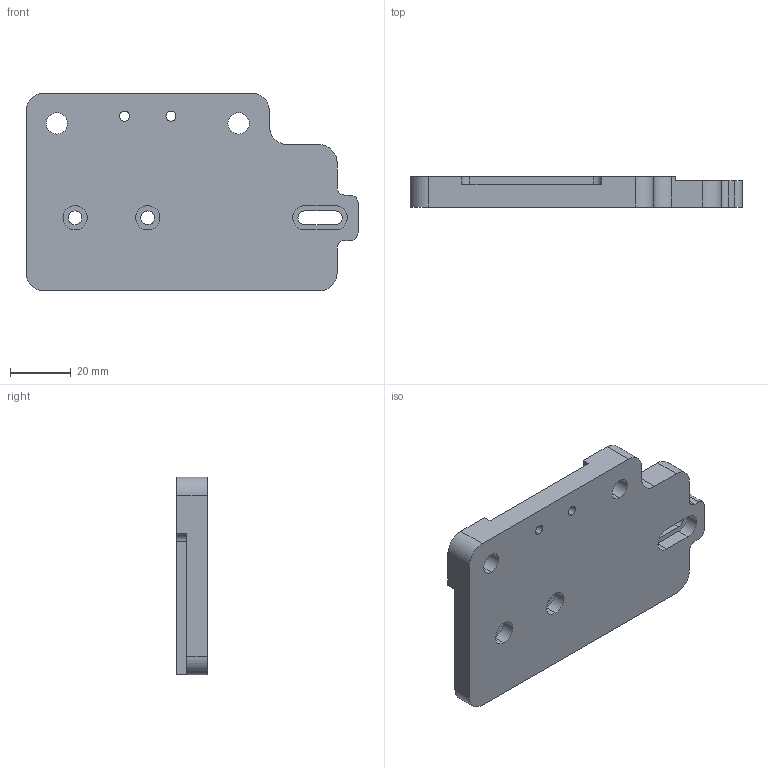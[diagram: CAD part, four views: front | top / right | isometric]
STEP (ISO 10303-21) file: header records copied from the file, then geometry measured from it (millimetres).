
FILE_DESCRIPTION (( 'STEP AP214' ), '1' );
FILE_NAME ('2024-07 - TELESCOPE BASEPLATE.STEP', '2024-11-20T07:21:16', ( '' ), ( '' ), 'SwSTEP 2.0', 'SolidWorks 2025', '' );
FILE_SCHEMA (( 'AUTOMOTIVE_DESIGN' ));
Length unit declared in the file: millimetre
Products named in the file (1): 2024-07 - TELESCOPE BASEPLATE
Bounding box: 109.13 x 10 x 65.05 mm (x, y, z)
Volume: 54466.3 mm3; surface area: 17000 mm2
Topology: 1 solids, 1 shells, 67 faces, 180 edges, 120 vertices
Faces by surface type: cylinder 37, plane 30
Entity records: 2179 total; most frequent: DIRECTION 390, CARTESIAN_POINT 368, ORIENTED_EDGE 360, EDGE_CURVE 180, AXIS2_PLACEMENT_3D 142, VERTEX_POINT 120, VECTOR 106, LINE 106
